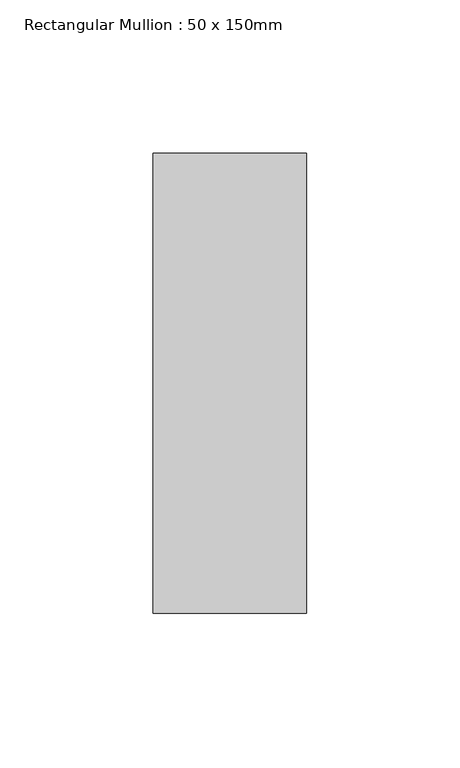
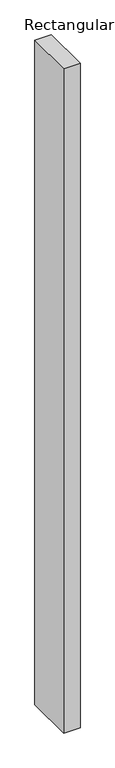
"""IFC4 building model written with IfcOpenShell, lengths in millimetres: member geometry, Rectangular Mullion : 50 x 150mm."""

from ifc_helpers import new_model, si_unit, frame, origin, place, context, project, spatial, polyline, outline, extrude, source, transform, mapped, element, save


def rectangular_mullion_50_x_150mm_bee9d6e8(model_context):
    return source(origin(), model_context, "Body", "SweptSolid", [
        extrude(outline(polyline([(0.0, 75.0), (0.0, -75.0), (-50.0, -75.0), (-50.0, 75.0), (0.0, 75.0)])), frame((0.0, 0.0, -2125.4869111), z_axis=(0.0, 0.0, 1.0), x_axis=(1.0, 0.0, 0.0)), (0.0, 0.0, 1.0), 2125.4869111),
    ])


if __name__ == "__main__":
    model = new_model("IFC4")
    model_context = context("Model", 3, world=origin())
    ifc_project = project(units=[si_unit("LENGTHUNIT", "METRE", prefix="MILLI")], contexts=[model_context])
    site = spatial("IfcSite", under=ifc_project)
    building = spatial("IfcBuilding", under=site)
    placement = place(None, origin())
    rectangular_mullion_50_x_150mm_shape = rectangular_mullion_50_x_150mm_bee9d6e8(model_context)
    element("IfcMember", 1, ObjectType="Rectangular Mullion : 50 x 150mm", at=placement, inside=building, context=model_context, shape_type="MappedRepresentation", body=[
        mapped(rectangular_mullion_50_x_150mm_shape, transform((0.0, 0.0, 0.0), x_axis=(1.0, 0.0, 0.0), y_axis=(0.0, 1.0, 0.0), z_axis=(0.0, 0.0, 1.0))),
    ])
    save(model, "model.ifc")
